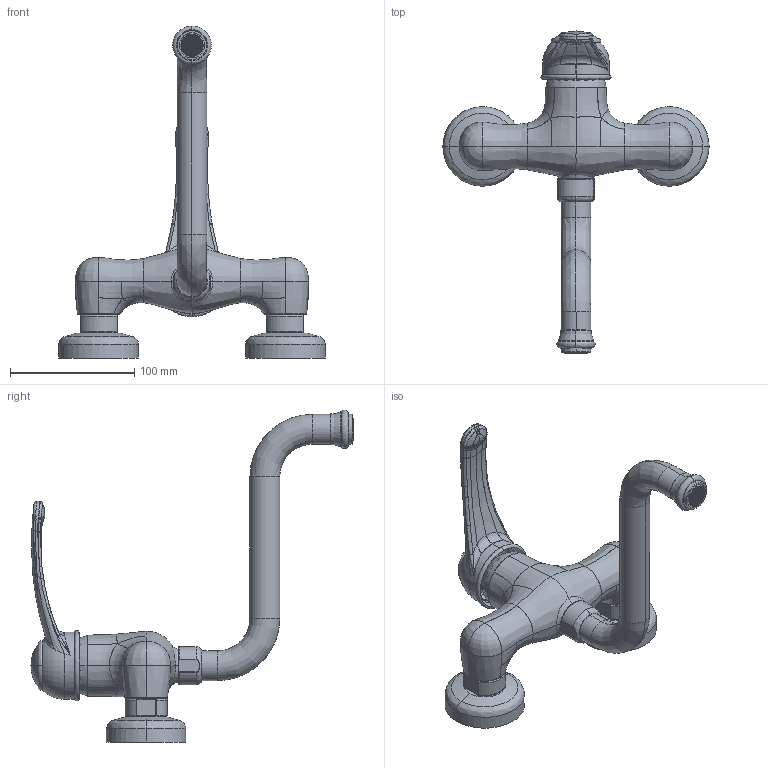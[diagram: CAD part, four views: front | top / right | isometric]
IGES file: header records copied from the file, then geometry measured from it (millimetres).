
Start section:  PTC IGES file: 29150.igs
Global section: file name: 29150.igs; native system: Creo Parametric by PTC Inc.; preprocessor: 2022014; author: carloff; organization: Unknown; date: 20260515.153019; units: millimetre
Bounding box: 214 x 259.11 x 266.8 mm (x, y, z)
Surface area: 216649.2 mm2 (no closed solid volume)
Topology: 0 solids, 0 shells, 5228 faces, 31838 edges, 31810 vertices
Faces by surface type: bspline 3545, revolution 1683
